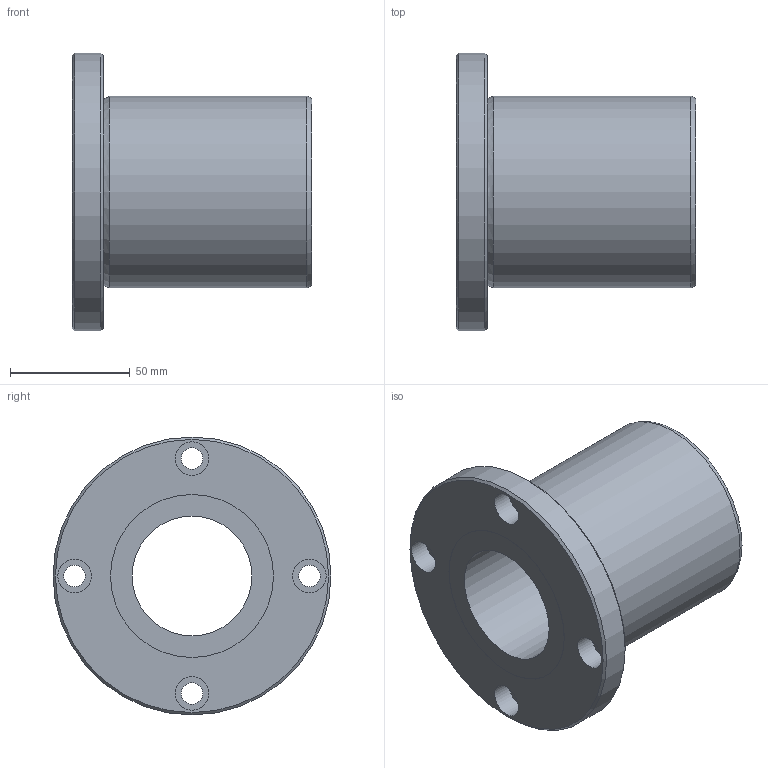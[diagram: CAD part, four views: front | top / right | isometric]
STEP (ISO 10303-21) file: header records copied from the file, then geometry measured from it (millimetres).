
FILE_DESCRIPTION((''),'2;1');
FILE_NAME('D:\製品 (図面)\カタログ用3D\リニアベアリング関連\STEP形式\LF\LF50.stp','2010-06-03T09:15:12',('Tsuchiya'),(''),'Autodesk Inventor 10','Autodesk Inventor 10','');
FILE_SCHEMA(('AUTOMOTIVE_DESIGN { 1 0 10303 214 1 1 1 1 }'));
Length unit declared in the file: millimetre
Products named in the file (1): LF50
Bounding box: 100 x 116 x 116 mm (x, y, z)
Volume: 370579.2 mm3; surface area: 60703.1 mm2
Topology: 1 solids, 1 shells, 26 faces, 47 edges, 30 vertices
Faces by surface type: cylinder 13, plane 9, cone 2, torus 1, bspline 1
Full cylindrical faces by diameter (mm): 9 x4, 14 x4, 50 x1, 68 x2, 80 x1, 116 x1
Entity records: 647 total; most frequent: CARTESIAN_POINT 131, DIRECTION 112, ORIENTED_EDGE 60, EDGE_LOOP 60, AXIS2_PLACEMENT_3D 56, FACE_BOUND 34, VERTEX_POINT 30, CIRCLE 30
